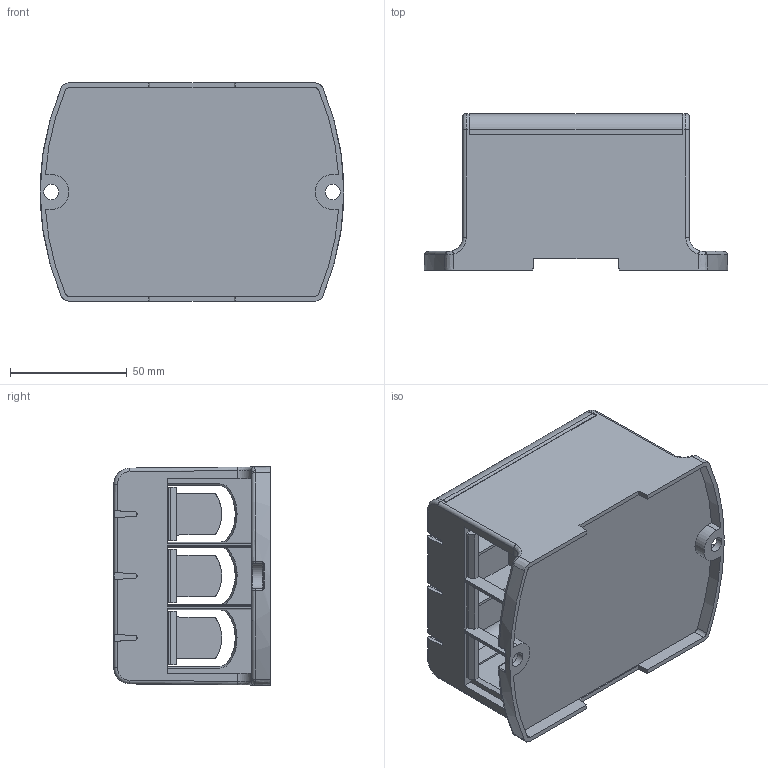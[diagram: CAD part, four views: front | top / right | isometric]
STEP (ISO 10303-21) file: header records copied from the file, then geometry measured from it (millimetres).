
FILE_DESCRIPTION((''),'2;1');
FILE_NAME('KE74_ASM','2016-05-30T',('Administrator'),(''),'PRO/ENGINEER BY PARAMETRIC TECHNOLOGY CORPORATION, 2009360','PRO/ENGINEER BY PARAMETRIC TECHNOLOGY CORPORATION, 2009360','');
FILE_SCHEMA(('CONFIG_CONTROL_DESIGN'));
Length unit declared in the file: millimetre
Products named in the file (3): KE69-2; KE69GAI-2; KE74_ASM
Assembly tree (2 placements, depth 2):
  KE74_ASM
    KE69-2
    KE69GAI-2
Bounding box: 130 x 67 x 93.5 mm (x, y, z)
Volume: 111905.1 mm3; surface area: 100608.9 mm2
Topology: 2 solids, 2 shells, 455 faces, 1279 edges, 816 vertices
Faces by surface type: plane 255, cylinder 100, torus 34, bspline 32, cone 30, extrusion 4
Entity records: 15877 total; most frequent: CARTESIAN_POINT 4225, ORIENTED_EDGE 2558, DIRECTION 2255, EDGE_CURVE 1279, VECTOR 867, LINE 863, VERTEX_POINT 816, AXIS2_PLACEMENT_3D 694
